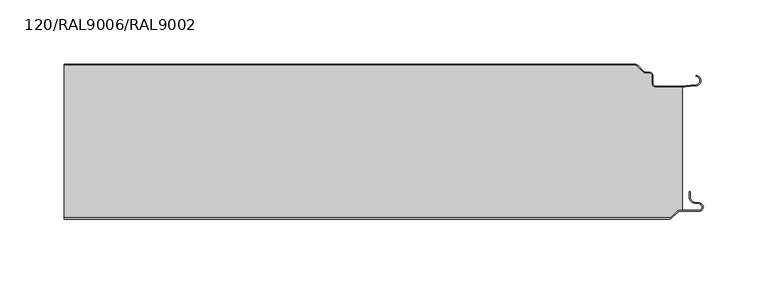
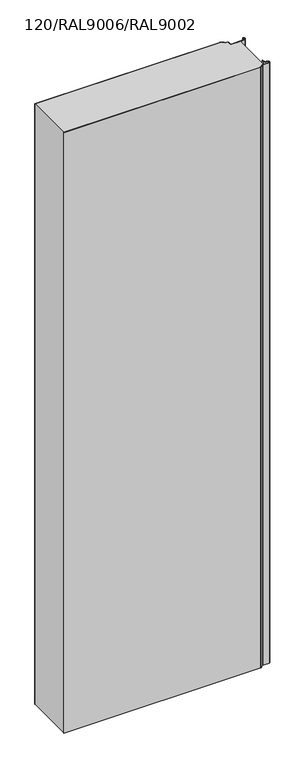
"""IFC4 building model written with IfcOpenShell, lengths in millimetres: plate geometry, TR_C_V_FHL_Panel_cut_TONGUE : 120/RAL9006/RAL9002."""

from ifc_helpers import new_model, si_unit, point, frame, frame_2d, origin, place, context, project, spatial, polyline, circle_curve, trimmed, segment, composite_curve, outline, extrude, source, transform, mapped, element, save


def plate_120_ral9006_ral9002_c86770fb(model_context):
    return source(origin(), model_context, "Body", "SweptSolid", [
        extrude(outline(composite_curve([segment(trimmed(circle_curve(frame_2d((239.8218256, -117.0)), 3.0), [point((241.9431459, -119.1213203))], [point((239.8218256, -120.0))], False, "CARTESIAN"), True, "CONTINUOUS"), segment(polyline([(239.8218256, -120.0), (-230.0000002, -120.0), (-230.0000002, -119.2), (239.8218256, -119.2)]), True, "CONTINUOUS"), segment(trimmed(circle_curve(frame_2d((239.8218256, -117.0)), 2.2), [point((239.8218256, -119.2))], [point((241.3774605, -118.5556349))], True, "CARTESIAN"), True, "CONTINUOUS"), segment(polyline([(241.3774605, -118.5556349), (245.7665478, -114.1665476)]), True, "CONTINUOUS"), segment(trimmed(circle_curve(frame_2d((248.1000002, -116.5)), 3.3), [point((245.7665478, -114.1665476))], [point((248.1000002, -113.2))], False, "CARTESIAN"), True, "CONTINUOUS"), segment(polyline([(248.1000002, -113.2), (262.8500002, -113.2)]), True, "CONTINUOUS"), segment(trimmed(circle_curve(frame_2d((262.8500002, -110.75)), 2.45), [point((262.8500002, -113.2))], [point((263.2754382, -108.337221))], True, "CARTESIAN"), True, "CONTINUOUS"), segment(polyline([(263.2754382, -108.337221), (259.0599009, -107.5939081)]), True, "CONTINUOUS"), segment(trimmed(circle_curve(frame_2d((259.8500002, -103.1130328)), 4.55), [point((259.0599009, -107.5939081))], [point((255.3000002, -103.1130328))], False, "CARTESIAN"), True, "CONTINUOUS"), segment(polyline([(255.3000002, -103.1130328), (255.3000002, -99.0), (256.1000002, -99.0), (256.1000002, -103.1130328)]), True, "CONTINUOUS"), segment(trimmed(circle_curve(frame_2d((259.8500002, -103.1130328)), 3.75), [point((256.1000002, -103.1130328))], [point((259.1988195, -106.8060618))], True, "CARTESIAN"), True, "CONTINUOUS"), segment(polyline([(259.1988195, -106.8060618), (263.4143567, -107.5493748)]), True, "CONTINUOUS"), segment(trimmed(circle_curve(frame_2d((262.8500002, -110.75)), 3.25), [point((263.4143567, -107.5493748))], [point((262.8500002, -114.0))], False, "CARTESIAN"), True, "CONTINUOUS"), segment(polyline([(262.8500002, -114.0), (248.1000002, -114.0)]), True, "CONTINUOUS"), segment(trimmed(circle_curve(frame_2d((248.1000002, -116.5)), 2.5), [point((248.1000002, -114.0))], [point((246.3322332, -114.732233))], True, "CARTESIAN"), True, "CONTINUOUS"), segment(polyline([(246.3322332, -114.732233), (241.9431459, -119.1213203)]), True, "CONTINUOUS")], self_intersect=False)), frame((0.0, 0.0, -15.0), z_axis=(0.0, 0.0, 1.0), x_axis=(1.0, 0.0, 0.0)), (0.0, 0.0, 1.0), 1515.0),
        extrude(outline(composite_curve([segment(trimmed(circle_curve(frame_2d((213.4370799, -2.7)), 1.9), [point((213.4370799, -0.8))], [point((214.7805828, -1.3564971))], False, "CARTESIAN"), True, "CONTINUOUS"), segment(polyline([(214.7805828, -1.3564971), (219.6039846, -6.179899)]), True, "CONTINUOUS"), segment(trimmed(circle_curve(frame_2d((221.5838836, -4.2)), 2.8), [point((219.6039846, -6.179899))], [point((221.5838836, -7.0))], True, "CARTESIAN"), True, "CONTINUOUS"), segment(polyline([(221.5838836, -7.0), (224.4000002, -7.0)]), True, "CONTINUOUS"), segment(trimmed(circle_curve(frame_2d((224.4000002, -8.9)), 1.9), [point((224.4000002, -7.0))], [point((226.3000002, -8.9))], False, "CARTESIAN"), True, "CONTINUOUS"), segment(polyline([(226.3000002, -8.9), (226.3000002, -14.8)]), True, "CONTINUOUS"), segment(trimmed(circle_curve(frame_2d((229.1000002, -14.8)), 2.8), [point((226.3000002, -14.8))], [point((229.1000002, -17.6))], True, "CARTESIAN"), True, "CONTINUOUS"), segment(polyline([(229.1000002, -17.6), (248.2349289, -17.6), (250.0000002, -17.4455763), (250.0000002, -113.2), (248.1000002, -113.2)]), True, "CONTINUOUS"), segment(trimmed(circle_curve(frame_2d((248.1000002, -116.5)), 3.3), [point((248.1000002, -113.2))], [point((245.7665478, -114.1665476))], True, "CARTESIAN"), True, "CONTINUOUS"), segment(polyline([(245.7665478, -114.1665476), (241.3774605, -118.5556349)]), True, "CONTINUOUS"), segment(trimmed(circle_curve(frame_2d((239.8218256, -117.0)), 2.2), [point((241.3774605, -118.5556349))], [point((239.8218256, -119.2))], False, "CARTESIAN"), True, "CONTINUOUS"), segment(polyline([(239.8218256, -119.2), (-230.0000002, -119.2), (-230.0000002, -0.8), (213.4370799, -0.8)]), True, "CONTINUOUS")], self_intersect=False)), frame((0.0, 0.0, -15.0), z_axis=(0.0, 0.0, 1.0), x_axis=(1.0, 0.0, 0.0)), (0.0, 0.0, 1.0), 1515.0),
        extrude(outline(composite_curve([segment(trimmed(circle_curve(frame_2d((213.4370799, -2.7)), 1.9), [point((214.7805828, -1.3564971))], [point((213.4370799, -0.8))], True, "CARTESIAN"), True, "CONTINUOUS"), segment(polyline([(213.4370799, -0.8), (-230.0000002, -0.8), (-230.0000002, 0.0), (213.4370799, 0.0)]), True, "CONTINUOUS"), segment(trimmed(circle_curve(frame_2d((213.4370799, -2.7)), 2.7), [point((213.4370799, 0.0))], [point((215.3462682, -0.7908117))], False, "CARTESIAN"), True, "CONTINUOUS"), segment(polyline([(215.3462682, -0.7908117), (220.1696701, -5.6142136)]), True, "CONTINUOUS"), segment(trimmed(circle_curve(frame_2d((221.5838836, -4.2)), 2.0), [point((220.1696701, -5.6142136))], [point((221.5838836, -6.2))], True, "CARTESIAN"), True, "CONTINUOUS"), segment(polyline([(221.5838836, -6.2), (224.4000002, -6.2)]), True, "CONTINUOUS"), segment(trimmed(circle_curve(frame_2d((224.4000002, -8.9)), 2.7), [point((224.4000002, -6.2))], [point((227.1000002, -8.9))], False, "CARTESIAN"), True, "CONTINUOUS"), segment(polyline([(227.1000002, -8.9), (227.1000002, -14.8)]), True, "CONTINUOUS"), segment(trimmed(circle_curve(frame_2d((229.1000002, -14.8)), 2.0), [point((227.1000002, -14.8))], [point((229.1000002, -16.8))], True, "CARTESIAN"), True, "CONTINUOUS"), segment(polyline([(229.1000002, -16.8), (248.2000002, -16.8), (260.6788985, -15.7082379)]), True, "CONTINUOUS"), segment(trimmed(circle_curve(frame_2d((260.4000002, -12.5204148)), 3.2), [point((260.6788985, -15.7082379))], [point((261.4418182, -9.4947554))], True, "CARTESIAN"), True, "CONTINUOUS"), segment(polyline([(261.4418182, -9.4947554), (260.5426333, -9.1851412), (260.8030879, -8.4287263), (261.7022728, -8.7383405)]), True, "CONTINUOUS"), segment(trimmed(circle_curve(frame_2d((260.4000002, -12.5204148)), 4.0), [point((261.7022728, -8.7383405))], [point((260.7486231, -16.5051936))], False, "CARTESIAN"), True, "CONTINUOUS"), segment(polyline([(260.7486231, -16.5051936), (248.2349289, -17.6), (229.1000002, -17.6)]), True, "CONTINUOUS"), segment(trimmed(circle_curve(frame_2d((229.1000002, -14.8)), 2.8), [point((229.1000002, -17.6))], [point((226.3000002, -14.8))], False, "CARTESIAN"), True, "CONTINUOUS"), segment(polyline([(226.3000002, -14.8), (226.3000002, -8.9)]), True, "CONTINUOUS"), segment(trimmed(circle_curve(frame_2d((224.4000002, -8.9)), 1.9), [point((226.3000002, -8.9))], [point((224.4000002, -7.0))], True, "CARTESIAN"), True, "CONTINUOUS"), segment(polyline([(224.4000002, -7.0), (221.5838836, -7.0)]), True, "CONTINUOUS"), segment(trimmed(circle_curve(frame_2d((221.5838836, -4.2)), 2.8), [point((221.5838836, -7.0))], [point((219.6039846, -6.179899))], False, "CARTESIAN"), True, "CONTINUOUS"), segment(polyline([(219.6039846, -6.179899), (214.7805828, -1.3564971)]), True, "CONTINUOUS")], self_intersect=False)), frame((0.0, 0.0, -15.0), z_axis=(0.0, 0.0, 1.0), x_axis=(1.0, 0.0, 0.0)), (0.0, 0.0, 1.0), 1515.0),
    ])


if __name__ == "__main__":
    model = new_model("IFC4")
    model_context = context("Model", 3, world=origin())
    ifc_project = project(units=[si_unit("LENGTHUNIT", "METRE", prefix="MILLI")], contexts=[model_context])
    site = spatial("IfcSite", under=ifc_project)
    building = spatial("IfcBuilding", under=site)
    placement = place(None, origin())
    plate_120_ral9006_ral9002_shape = plate_120_ral9006_ral9002_c86770fb(model_context)
    element("IfcPlate", 1, ObjectType="TR_C_V_FHL_Panel_cut_TONGUE : 120/RAL9006/RAL9002", at=placement, inside=building, context=model_context, shape_type="MappedRepresentation", body=[
        mapped(plate_120_ral9006_ral9002_shape, transform((0.0, 0.0, 0.0), x_axis=(1.0, 0.0, 0.0), y_axis=(0.0, 1.0, 0.0), z_axis=(0.0, 0.0, 1.0))),
    ])
    save(model, "model.ifc")
